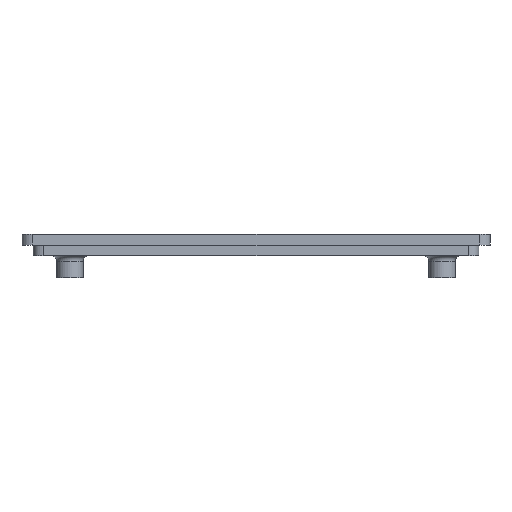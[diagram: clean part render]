
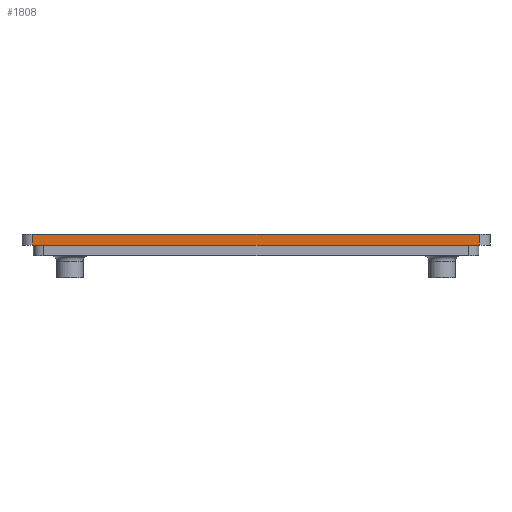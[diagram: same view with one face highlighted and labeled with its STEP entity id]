
A CAD part, left-side view. The second image highlights one B-rep face of the part: STEP entity #1808.
In plain terms, the highlighted planar face has unit normal (-1, 0, 0).
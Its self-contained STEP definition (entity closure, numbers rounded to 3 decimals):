
#462 = PLANE('',#463);
#463 = AXIS2_PLACEMENT_3D('',#464,#465,#466);
#464 = CARTESIAN_POINT('',(0.,0.,0.));
#465 = DIRECTION('',(-0.,-0.,-1.));
#466 = DIRECTION('',(-1.,0.,0.));
#1273 = VERTEX_POINT('',#1274);
#1274 = CARTESIAN_POINT('',(-53.,-42.,0.));
#1293 = CYLINDRICAL_SURFACE('',#1294,2.);
#1294 = AXIS2_PLACEMENT_3D('',#1295,#1296,#1297);
#1295 = CARTESIAN_POINT('',(-51.,-42.,0.));
#1296 = DIRECTION('',(0.,0.,1.));
#1297 = DIRECTION('',(-1.,0.,0.));
#1305 = EDGE_CURVE('',#1273,#1306,#1308,.T.);
#1306 = VERTEX_POINT('',#1307);
#1307 = CARTESIAN_POINT('',(-53.,42.,0.));
#1308 = SURFACE_CURVE('',#1309,(#1313,#1320),.PCURVE_S1.);
#1309 = LINE('',#1310,#1311);
#1310 = CARTESIAN_POINT('',(-53.,-44.,0.));
#1311 = VECTOR('',#1312,1.);
#1312 = DIRECTION('',(0.,1.,0.));
#1313 = PCURVE('',#462,#1314);
#1314 = DEFINITIONAL_REPRESENTATION('',(#1315),#1319);
#1315 = LINE('',#1316,#1317);
#1316 = CARTESIAN_POINT('',(53.,-44.));
#1317 = VECTOR('',#1318,1.);
#1318 = DIRECTION('',(0.,1.));
#1319 = ( GEOMETRIC_REPRESENTATION_CONTEXT(2) 
PARAMETRIC_REPRESENTATION_CONTEXT() REPRESENTATION_CONTEXT('2D SPACE',''
  ) );
#1320 = PCURVE('',#1321,#1326);
#1321 = PLANE('',#1322);
#1322 = AXIS2_PLACEMENT_3D('',#1323,#1324,#1325);
#1323 = CARTESIAN_POINT('',(-53.,-44.,0.));
#1324 = DIRECTION('',(-1.,0.,0.));
#1325 = DIRECTION('',(0.,1.,0.));
#1326 = DEFINITIONAL_REPRESENTATION('',(#1327),#1331);
#1327 = LINE('',#1328,#1329);
#1328 = CARTESIAN_POINT('',(0.,0.));
#1329 = VECTOR('',#1330,1.);
#1330 = DIRECTION('',(1.,0.));
#1331 = ( GEOMETRIC_REPRESENTATION_CONTEXT(2) 
PARAMETRIC_REPRESENTATION_CONTEXT() REPRESENTATION_CONTEXT('2D SPACE',''
  ) );
#1352 = CYLINDRICAL_SURFACE('',#1353,2.);
#1353 = AXIS2_PLACEMENT_3D('',#1354,#1355,#1356);
#1354 = CARTESIAN_POINT('',(-51.,42.,0.));
#1355 = DIRECTION('',(0.,0.,1.));
#1356 = DIRECTION('',(0.,1.,0.));
#1672 = PLANE('',#1673);
#1673 = AXIS2_PLACEMENT_3D('',#1674,#1675,#1676);
#1674 = CARTESIAN_POINT('',(0.,0.,2.));
#1675 = DIRECTION('',(-0.,-0.,-1.));
#1676 = DIRECTION('',(-1.,0.,0.));
#1709 = EDGE_CURVE('',#1306,#1710,#1712,.T.);
#1710 = VERTEX_POINT('',#1711);
#1711 = CARTESIAN_POINT('',(-53.,42.,2.));
#1712 = SURFACE_CURVE('',#1713,(#1717,#1724),.PCURVE_S1.);
#1713 = LINE('',#1714,#1715);
#1714 = CARTESIAN_POINT('',(-53.,42.,0.));
#1715 = VECTOR('',#1716,1.);
#1716 = DIRECTION('',(0.,0.,1.));
#1717 = PCURVE('',#1352,#1718);
#1718 = DEFINITIONAL_REPRESENTATION('',(#1719),#1723);
#1719 = LINE('',#1720,#1721);
#1720 = CARTESIAN_POINT('',(1.571,0.));
#1721 = VECTOR('',#1722,1.);
#1722 = DIRECTION('',(0.,1.));
#1723 = ( GEOMETRIC_REPRESENTATION_CONTEXT(2) 
PARAMETRIC_REPRESENTATION_CONTEXT() REPRESENTATION_CONTEXT('2D SPACE',''
  ) );
#1724 = PCURVE('',#1321,#1725);
#1725 = DEFINITIONAL_REPRESENTATION('',(#1726),#1730);
#1726 = LINE('',#1727,#1728);
#1727 = CARTESIAN_POINT('',(86.,0.));
#1728 = VECTOR('',#1729,1.);
#1729 = DIRECTION('',(0.,-1.));
#1730 = ( GEOMETRIC_REPRESENTATION_CONTEXT(2) 
PARAMETRIC_REPRESENTATION_CONTEXT() REPRESENTATION_CONTEXT('2D SPACE',''
  ) );
#1808 = ADVANCED_FACE('',(#1809),#1321,.T.);
#1809 = FACE_BOUND('',#1810,.T.);
#1810 = EDGE_LOOP('',(#1811,#1812,#1835,#1856));
#1811 = ORIENTED_EDGE('',*,*,#1305,.F.);
#1812 = ORIENTED_EDGE('',*,*,#1813,.T.);
#1813 = EDGE_CURVE('',#1273,#1814,#1816,.T.);
#1814 = VERTEX_POINT('',#1815);
#1815 = CARTESIAN_POINT('',(-53.,-42.,2.));
#1816 = SURFACE_CURVE('',#1817,(#1821,#1828),.PCURVE_S1.);
#1817 = LINE('',#1818,#1819);
#1818 = CARTESIAN_POINT('',(-53.,-42.,0.));
#1819 = VECTOR('',#1820,1.);
#1820 = DIRECTION('',(0.,0.,1.));
#1821 = PCURVE('',#1321,#1822);
#1822 = DEFINITIONAL_REPRESENTATION('',(#1823),#1827);
#1823 = LINE('',#1824,#1825);
#1824 = CARTESIAN_POINT('',(2.,0.));
#1825 = VECTOR('',#1826,1.);
#1826 = DIRECTION('',(0.,-1.));
#1827 = ( GEOMETRIC_REPRESENTATION_CONTEXT(2) 
PARAMETRIC_REPRESENTATION_CONTEXT() REPRESENTATION_CONTEXT('2D SPACE',''
  ) );
#1828 = PCURVE('',#1293,#1829);
#1829 = DEFINITIONAL_REPRESENTATION('',(#1830),#1834);
#1830 = LINE('',#1831,#1832);
#1831 = CARTESIAN_POINT('',(0.,0.));
#1832 = VECTOR('',#1833,1.);
#1833 = DIRECTION('',(0.,1.));
#1834 = ( GEOMETRIC_REPRESENTATION_CONTEXT(2) 
PARAMETRIC_REPRESENTATION_CONTEXT() REPRESENTATION_CONTEXT('2D SPACE',''
  ) );
#1835 = ORIENTED_EDGE('',*,*,#1836,.T.);
#1836 = EDGE_CURVE('',#1814,#1710,#1837,.T.);
#1837 = SURFACE_CURVE('',#1838,(#1842,#1849),.PCURVE_S1.);
#1838 = LINE('',#1839,#1840);
#1839 = CARTESIAN_POINT('',(-53.,-44.,2.));
#1840 = VECTOR('',#1841,1.);
#1841 = DIRECTION('',(0.,1.,0.));
#1842 = PCURVE('',#1321,#1843);
#1843 = DEFINITIONAL_REPRESENTATION('',(#1844),#1848);
#1844 = LINE('',#1845,#1846);
#1845 = CARTESIAN_POINT('',(0.,-2.));
#1846 = VECTOR('',#1847,1.);
#1847 = DIRECTION('',(1.,0.));
#1848 = ( GEOMETRIC_REPRESENTATION_CONTEXT(2) 
PARAMETRIC_REPRESENTATION_CONTEXT() REPRESENTATION_CONTEXT('2D SPACE',''
  ) );
#1849 = PCURVE('',#1672,#1850);
#1850 = DEFINITIONAL_REPRESENTATION('',(#1851),#1855);
#1851 = LINE('',#1852,#1853);
#1852 = CARTESIAN_POINT('',(53.,-44.));
#1853 = VECTOR('',#1854,1.);
#1854 = DIRECTION('',(0.,1.));
#1855 = ( GEOMETRIC_REPRESENTATION_CONTEXT(2) 
PARAMETRIC_REPRESENTATION_CONTEXT() REPRESENTATION_CONTEXT('2D SPACE',''
  ) );
#1856 = ORIENTED_EDGE('',*,*,#1709,.F.);
